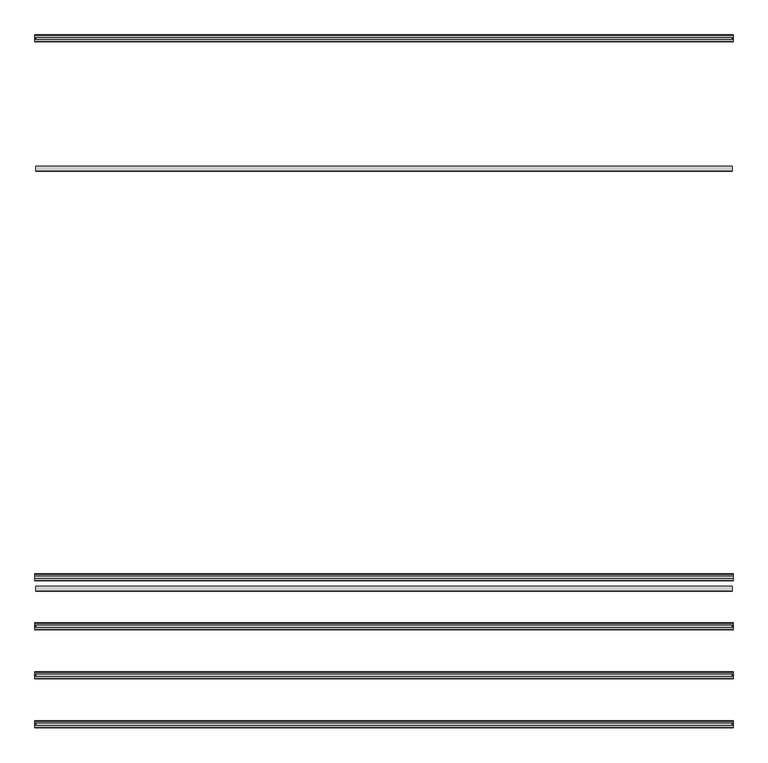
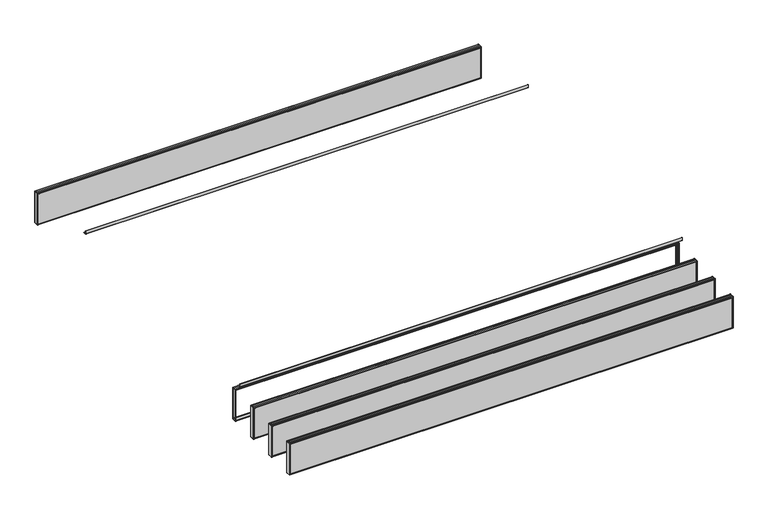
"""IFC4 building model written with IfcOpenShell, lengths in millimetres: proxy geometry, durlum_POLYLAM_KS : durlum_POLYLAM-KS/-S 40 RV-L6."""

from ifc_helpers import new_model, si_unit, point, frame, frame_2d, origin, place, context, project, spatial, polyline, circle_curve, trimmed, segment, composite_curve, outline, extrude, source, transform, mapped, element, save
from ifc_brep_helpers import plane_surface, cylinder_surface, advanced_brep


def generic_models_780d98af(model_context):
    return source(origin(), model_context, "Body", "SolidModel", [
        advanced_brep(
        [(1995.0, -1102.0, 1990.9), (1995.0, -1112.0, 1990.9), (1995.0, -1112.0, 1990.0604454), (1995.0, -1101.0, 1990.0604454), (1995.0, -1101.0, 1691.9), (1995.0, -1139.0, 1691.9), (1995.0, -1139.0, 1989.8155735), (1995.0, -1128.0, 1989.8155735), (1995.0, -1128.0, 1990.9), (1995.0, -1138.0, 1990.9), (1995.0, -1140.0, 1988.9), (1995.0, -1140.0, 1692.9), (1995.0, -1138.0, 1690.9), (1995.0, -1102.0, 1690.9), (1995.0, -1100.0, 1692.9), (1995.0, -1100.0, 1988.9), (-1995.0, -1102.0, 1990.9), (-1995.0, -1100.0, 1988.9), (-1995.0, -1100.0, 1692.9), (-1995.0, -1102.0, 1690.9), (-1995.0, -1138.0, 1690.9), (-1995.0, -1140.0, 1692.9), (-1995.0, -1140.0, 1988.9), (-1995.0, -1138.0, 1990.9), (-1995.0, -1128.0, 1990.9), (-1995.0, -1128.0, 1989.8155735), (-1995.0, -1139.0, 1989.8155735), (-1995.0, -1139.0, 1691.9), (-1995.0, -1101.0, 1691.9), (-1995.0, -1101.0, 1990.0604454), (-1995.0, -1112.0, 1990.0604454), (-1995.0, -1112.0, 1990.9), (-1986.5, -1101.0, 1982.4), (1986.5, -1101.0, 1982.4), (1986.5, -1101.0, 1699.4), (-1986.5, -1101.0, 1699.4), (1986.5, -1139.0, 1982.4), (-1986.5, -1139.0, 1982.4), (-1986.5, -1139.0, 1699.4), (1986.5, -1139.0, 1699.4), (-1986.5, -1140.0, 1982.4), (1986.5, -1140.0, 1982.4), (1986.5, -1140.0, 1699.4), (-1986.5, -1140.0, 1699.4), (1986.5, -1100.0, 1982.4), (-1986.5, -1100.0, 1982.4), (-1986.5, -1100.0, 1699.4), (1986.5, -1100.0, 1699.4)],
        [
            (0, 1),
            (1, 2),
            (2, 3),
            (3, 4),
            (4, 5),
            (5, 6),
            (6, 7),
            (7, 8),
            (8, 9),
            (9, 10, circle_curve(frame((1995.0, -1138.0, 1988.9), z_axis=(1.0, 0.0, 0.0), x_axis=(0.0, 1.0, 0.0)), 2.0)),
            (10, 11),
            (11, 12, circle_curve(frame((1995.0, -1138.0, 1692.9), z_axis=(1.0, 0.0, 0.0), x_axis=(0.0, 1.0, 0.0)), 2.0)),
            (12, 13),
            (13, 14, circle_curve(frame((1995.0, -1102.0, 1692.9), z_axis=(1.0, 0.0, 0.0), x_axis=(0.0, 1.0, 0.0)), 2.0)),
            (14, 15),
            (15, 0, circle_curve(frame((1995.0, -1102.0, 1988.9), z_axis=(1.0, 0.0, 0.0), x_axis=(0.0, 1.0, 0.0)), 2.0)),
            (16, 17, circle_curve(frame((-1995.0, -1102.0, 1988.9), z_axis=(-1.0, 0.0, 0.0), x_axis=(0.0, 1.0, 0.0)), 2.0)),
            (17, 18),
            (18, 19, circle_curve(frame((-1995.0, -1102.0, 1692.9), z_axis=(-1.0, 0.0, 0.0), x_axis=(0.0, 1.0, 0.0)), 2.0)),
            (19, 20),
            (20, 21, circle_curve(frame((-1995.0, -1138.0, 1692.9), z_axis=(-1.0, 0.0, 0.0), x_axis=(0.0, 1.0, 0.0)), 2.0)),
            (21, 22),
            (22, 23, circle_curve(frame((-1995.0, -1138.0, 1988.9), z_axis=(-1.0, 0.0, 0.0), x_axis=(0.0, 1.0, 0.0)), 2.0)),
            (23, 24),
            (24, 25),
            (25, 26),
            (26, 27),
            (27, 28),
            (28, 29),
            (29, 30),
            (30, 31),
            (31, 16),
            (0, 16),
            (31, 1),
            (30, 2),
            (29, 3),
            (28, 4),
            (32, 33),
            (33, 34),
            (34, 35),
            (35, 32),
            (27, 5),
            (26, 6),
            (36, 37),
            (37, 38),
            (38, 39),
            (39, 36),
            (25, 7),
            (24, 8),
            (23, 9),
            (10, 22),
            (21, 11),
            (40, 41),
            (41, 42),
            (42, 43),
            (43, 40),
            (12, 20),
            (19, 13),
            (14, 18),
            (17, 15),
            (44, 45),
            (45, 46),
            (46, 47),
            (47, 44),
            (44, 33),
            (32, 45),
            (36, 41),
            (40, 37),
            (35, 46),
            (43, 38),
            (34, 47),
            (42, 39),
        ],
        [
            plane_surface(frame((1995.0, -1112.0, 1990.9), z_axis=(1.0, 0.0, 0.0), x_axis=(0.0, -1.0, 0.0))),
            plane_surface(frame((-1995.0, -1112.0, 1990.9), z_axis=(-1.0, 0.0, 0.0), x_axis=(0.0, 1.0, 0.0))),
            plane_surface(frame((1995.0, -1102.0, 1990.9), z_axis=(0.0, 0.0, 1.0), x_axis=(-1.0, 0.0, 0.0))),
            plane_surface(frame((1995.0, -1112.0, 1990.9), z_axis=(0.0, -1.0, 0.0), x_axis=(-1.0, 0.0, 0.0))),
            plane_surface(frame((1995.0, -1112.0, 1990.0604454), z_axis=(0.0, 0.0, -1.0), x_axis=(-1.0, 0.0, 0.0))),
            plane_surface(frame((1995.0, -1101.0, 1990.0604454), z_axis=(0.0, -1.0, 0.0), x_axis=(-1.0, 0.0, 0.0))),
            plane_surface(frame((1995.0, -1101.0, 1691.9), z_axis=(0.0, 0.0, 1.0), x_axis=(-1.0, 0.0, 0.0))),
            plane_surface(frame((1995.0, -1139.0, 1691.9), z_axis=(0.0, 1.0, 0.0), x_axis=(-1.0, 0.0, 0.0))),
            plane_surface(frame((1995.0, -1139.0, 1989.8155735), z_axis=(0.0, 0.0, -1.0), x_axis=(-1.0, 0.0, 0.0))),
            plane_surface(frame((1995.0, -1128.0, 1989.8155735), z_axis=(0.0, 1.0, 0.0), x_axis=(-1.0, 0.0, 0.0))),
            plane_surface(frame((1995.0, -1128.0, 1990.9), z_axis=(0.0, 0.0, 1.0), x_axis=(-1.0, 0.0, 0.0))),
            plane_surface(frame((1995.0, -1140.0, 1988.9), z_axis=(0.0, -1.0, 0.0), x_axis=(-1.0, 0.0, 0.0))),
            plane_surface(frame((1995.0, -1138.0, 1690.9), z_axis=(0.0, 0.0, -1.0), x_axis=(-1.0, 0.0, 0.0))),
            plane_surface(frame((1995.0, -1100.0, 1692.9), z_axis=(0.0, 1.0, 0.0), x_axis=(-1.0, 0.0, 0.0))),
            cylinder_surface(frame((-1995.0, -1138.0, 1988.9), z_axis=(1.0, 0.0, 0.0), x_axis=(0.0, 1.0, 0.0)), 2.0),
            cylinder_surface(frame((-1995.0, -1138.0, 1692.9), z_axis=(1.0, 0.0, 0.0), x_axis=(0.0, 1.0, 0.0)), 2.0),
            cylinder_surface(frame((-1995.0, -1102.0, 1692.9), z_axis=(1.0, 0.0, 0.0), x_axis=(0.0, 1.0, 0.0)), 2.0),
            cylinder_surface(frame((-1995.0, -1102.0, 1988.9), z_axis=(1.0, 0.0, 0.0), x_axis=(0.0, 1.0, 0.0)), 2.0),
            plane_surface(frame((1986.5, -1140.0, 1982.4), z_axis=(0.0, 0.0, -1.0), x_axis=(0.0, 1.0, 0.0))),
            plane_surface(frame((-1986.5, -1140.0, 1982.4), z_axis=(1.0, 0.0, 0.0), x_axis=(0.0, 1.0, 0.0))),
            plane_surface(frame((-1986.5, -1140.0, 1699.4), z_axis=(0.0, 0.0, 1.0), x_axis=(0.0, 1.0, 0.0))),
            plane_surface(frame((1986.5, -1140.0, 1699.4), z_axis=(-1.0, 0.0, 0.0), x_axis=(0.0, 1.0, 0.0))),
        ],
        [
            (0, [[1, 2, 3, 4, 5, 6, 7, 8, 9, 10, 11, 12, 13, 14, 15, 16]]),
            (1, [[17, 18, 19, 20, 21, 22, 23, 24, 25, 26, 27, 28, 29, 30, 31, 32]]),
            (2, [[-1, 33, -32, 34]]),
            (3, [[-2, -34, -31, 35]]),
            (4, [[-3, -35, -30, 36]]),
            (5, [[-4, -36, -29, 37], [38, 39, 40, 41]]),
            (6, [[-5, -37, -28, 42]]),
            (7, [[-6, -42, -27, 43], [44, 45, 46, 47]]),
            (8, [[-7, -43, -26, 48]]),
            (9, [[-8, -48, -25, 49]]),
            (10, [[-9, -49, -24, 50]]),
            (11, [[-11, 51, -22, 52], [53, 54, 55, 56]]),
            (12, [[-13, 57, -20, 58]]),
            (13, [[-15, 59, -18, 60], [61, 62, 63, 64]]),
            (14, [[-10, -50, -23, -51]]),
            (15, [[-12, -52, -21, -57]]),
            (16, [[-14, -58, -19, -59]]),
            (17, [[-16, -60, -17, -33]]),
            (18, [[65, -38, 66, -61]]),
            (18, [[67, -53, 68, -44]]),
            (19, [[-66, -41, 69, -62]]),
            (19, [[-68, -56, 70, -45]]),
            (20, [[-69, -40, 71, -63]]),
            (20, [[-70, -55, 72, -46]]),
            (21, [[-65, -64, -71, -39]]),
            (21, [[-67, -47, -72, -54]]),
        ],
    ),
        extrude(outline(polyline([(1993.0, -1381.0), (1995.0, -1381.0), (1995.0, -1419.0), (1993.0, -1419.0), (1993.0, -1381.0)])), frame((0.0, 0.0, 1691.9), z_axis=(0.0, 0.0, 1.0), x_axis=(1.0, 0.0, 0.0)), (0.0, 0.0, 1.0), 298.1604454),
        extrude(outline(polyline([(-1995.0, -1381.0), (-1993.0, -1381.0), (-1993.0, -1419.0), (-1995.0, -1419.0), (-1995.0, -1381.0)])), frame((0.0, 0.0, 1691.9), z_axis=(0.0, 0.0, 1.0), x_axis=(1.0, 0.0, 0.0)), (0.0, 0.0, 1.0), 298.1604454),
        extrude(outline(polyline([(1986.5, -1381.0), (1986.5, -1419.0), (-1986.5, -1419.0), (-1986.5, -1381.0), (1986.5, -1381.0)])), frame((0.0, 0.0, 1691.9), z_axis=(0.0, 0.0, 1.0), x_axis=(1.0, 0.0, 0.0)), (0.0, 0.0, 1.0), 298.0),
        extrude(outline(polyline([(1986.5, -1381.0), (-1986.5, -1381.0), (-1986.5, -1380.0), (1986.5, -1380.0), (1986.5, -1381.0)])), frame((0.0, 0.0, 1699.4), z_axis=(0.0, 0.0, 1.0), x_axis=(1.0, 0.0, 0.0)), (0.0, 0.0, 1.0), 283.0),
        extrude(outline(polyline([(1986.5, -1420.0), (-1986.5, -1420.0), (-1986.5, -1419.0), (1986.5, -1419.0), (1986.5, -1420.0)])), frame((0.0, 0.0, 1699.4), z_axis=(0.0, 0.0, 1.0), x_axis=(1.0, 0.0, 0.0)), (0.0, 0.0, 1.0), 283.0),
        advanced_brep(
        [(1995.0, -1382.0, 1990.9), (1995.0, -1392.0, 1990.9), (1995.0, -1392.0, 1990.0604454), (1995.0, -1381.0, 1990.0604454), (1995.0, -1381.0, 1691.9), (1995.0, -1419.0, 1691.9), (1995.0, -1419.0, 1989.8155735), (1995.0, -1408.0, 1989.8155735), (1995.0, -1408.0, 1990.9), (1995.0, -1418.0, 1990.9), (1995.0, -1420.0, 1988.9), (1995.0, -1420.0, 1692.9), (1995.0, -1418.0, 1690.9), (1995.0, -1382.0, 1690.9), (1995.0, -1380.0, 1692.9), (1995.0, -1380.0, 1988.9), (-1995.0, -1382.0, 1990.9), (-1995.0, -1380.0, 1988.9), (-1995.0, -1380.0, 1692.9), (-1995.0, -1382.0, 1690.9), (-1995.0, -1418.0, 1690.9), (-1995.0, -1420.0, 1692.9), (-1995.0, -1420.0, 1988.9), (-1995.0, -1418.0, 1990.9), (-1995.0, -1408.0, 1990.9), (-1995.0, -1408.0, 1989.8155735), (-1995.0, -1419.0, 1989.8155735), (-1995.0, -1419.0, 1691.9), (-1995.0, -1381.0, 1691.9), (-1995.0, -1381.0, 1990.0604454), (-1995.0, -1392.0, 1990.0604454), (-1995.0, -1392.0, 1990.9), (-1986.5, -1381.0, 1982.4), (1986.5, -1381.0, 1982.4), (1986.5, -1381.0, 1699.4), (-1986.5, -1381.0, 1699.4), (1986.5, -1419.0, 1982.4), (-1986.5, -1419.0, 1982.4), (-1986.5, -1419.0, 1699.4), (1986.5, -1419.0, 1699.4), (-1986.5, -1420.0, 1982.4), (1986.5, -1420.0, 1982.4), (1986.5, -1420.0, 1699.4), (-1986.5, -1420.0, 1699.4), (1986.5, -1380.0, 1982.4), (-1986.5, -1380.0, 1982.4), (-1986.5, -1380.0, 1699.4), (1986.5, -1380.0, 1699.4)],
        [
            (0, 1),
            (1, 2),
            (2, 3),
            (3, 4),
            (4, 5),
            (5, 6),
            (6, 7),
            (7, 8),
            (8, 9),
            (9, 10, circle_curve(frame((1995.0, -1418.0, 1988.9), z_axis=(1.0, 0.0, 0.0), x_axis=(0.0, 1.0, 0.0)), 2.0)),
            (10, 11),
            (11, 12, circle_curve(frame((1995.0, -1418.0, 1692.9), z_axis=(1.0, 0.0, 0.0), x_axis=(0.0, 1.0, 0.0)), 2.0)),
            (12, 13),
            (13, 14, circle_curve(frame((1995.0, -1382.0, 1692.9), z_axis=(1.0, 0.0, 0.0), x_axis=(0.0, 1.0, 0.0)), 2.0)),
            (14, 15),
            (15, 0, circle_curve(frame((1995.0, -1382.0, 1988.9), z_axis=(1.0, 0.0, 0.0), x_axis=(0.0, 1.0, 0.0)), 2.0)),
            (16, 17, circle_curve(frame((-1995.0, -1382.0, 1988.9), z_axis=(-1.0, 0.0, 0.0), x_axis=(0.0, 1.0, 0.0)), 2.0)),
            (17, 18),
            (18, 19, circle_curve(frame((-1995.0, -1382.0, 1692.9), z_axis=(-1.0, 0.0, 0.0), x_axis=(0.0, 1.0, 0.0)), 2.0)),
            (19, 20),
            (20, 21, circle_curve(frame((-1995.0, -1418.0, 1692.9), z_axis=(-1.0, 0.0, 0.0), x_axis=(0.0, 1.0, 0.0)), 2.0)),
            (21, 22),
            (22, 23, circle_curve(frame((-1995.0, -1418.0, 1988.9), z_axis=(-1.0, 0.0, 0.0), x_axis=(0.0, 1.0, 0.0)), 2.0)),
            (23, 24),
            (24, 25),
            (25, 26),
            (26, 27),
            (27, 28),
            (28, 29),
            (29, 30),
            (30, 31),
            (31, 16),
            (0, 16),
            (31, 1),
            (30, 2),
            (29, 3),
            (28, 4),
            (32, 33),
            (33, 34),
            (34, 35),
            (35, 32),
            (27, 5),
            (26, 6),
            (36, 37),
            (37, 38),
            (38, 39),
            (39, 36),
            (25, 7),
            (24, 8),
            (23, 9),
            (10, 22),
            (21, 11),
            (40, 41),
            (41, 42),
            (42, 43),
            (43, 40),
            (12, 20),
            (19, 13),
            (14, 18),
            (17, 15),
            (44, 45),
            (45, 46),
            (46, 47),
            (47, 44),
            (44, 33),
            (32, 45),
            (36, 41),
            (40, 37),
            (35, 46),
            (43, 38),
            (34, 47),
            (42, 39),
        ],
        [
            plane_surface(frame((1995.0, -1392.0, 1990.9), z_axis=(1.0, 0.0, 0.0), x_axis=(0.0, -1.0, 0.0))),
            plane_surface(frame((-1995.0, -1392.0, 1990.9), z_axis=(-1.0, 0.0, 0.0), x_axis=(0.0, 1.0, 0.0))),
            plane_surface(frame((1995.0, -1382.0, 1990.9), z_axis=(0.0, 0.0, 1.0), x_axis=(-1.0, 0.0, 0.0))),
            plane_surface(frame((1995.0, -1392.0, 1990.9), z_axis=(0.0, -1.0, 0.0), x_axis=(-1.0, 0.0, 0.0))),
            plane_surface(frame((1995.0, -1392.0, 1990.0604454), z_axis=(0.0, 0.0, -1.0), x_axis=(-1.0, 0.0, 0.0))),
            plane_surface(frame((1995.0, -1381.0, 1990.0604454), z_axis=(0.0, -1.0, 0.0), x_axis=(-1.0, 0.0, 0.0))),
            plane_surface(frame((1995.0, -1381.0, 1691.9), z_axis=(0.0, 0.0, 1.0), x_axis=(-1.0, 0.0, 0.0))),
            plane_surface(frame((1995.0, -1419.0, 1691.9), z_axis=(0.0, 1.0, 0.0), x_axis=(-1.0, 0.0, 0.0))),
            plane_surface(frame((1995.0, -1419.0, 1989.8155735), z_axis=(0.0, 0.0, -1.0), x_axis=(-1.0, 0.0, 0.0))),
            plane_surface(frame((1995.0, -1408.0, 1989.8155735), z_axis=(0.0, 1.0, 0.0), x_axis=(-1.0, 0.0, 0.0))),
            plane_surface(frame((1995.0, -1408.0, 1990.9), z_axis=(0.0, 0.0, 1.0), x_axis=(-1.0, 0.0, 0.0))),
            plane_surface(frame((1995.0, -1420.0, 1988.9), z_axis=(0.0, -1.0, 0.0), x_axis=(-1.0, 0.0, 0.0))),
            plane_surface(frame((1995.0, -1418.0, 1690.9), z_axis=(0.0, 0.0, -1.0), x_axis=(-1.0, 0.0, 0.0))),
            plane_surface(frame((1995.0, -1380.0, 1692.9), z_axis=(0.0, 1.0, 0.0), x_axis=(-1.0, 0.0, 0.0))),
            cylinder_surface(frame((-1995.0, -1418.0, 1988.9), z_axis=(1.0, 0.0, 0.0), x_axis=(0.0, 1.0, 0.0)), 2.0),
            cylinder_surface(frame((-1995.0, -1418.0, 1692.9), z_axis=(1.0, 0.0, 0.0), x_axis=(0.0, 1.0, 0.0)), 2.0),
            cylinder_surface(frame((-1995.0, -1382.0, 1692.9), z_axis=(1.0, 0.0, 0.0), x_axis=(0.0, 1.0, 0.0)), 2.0),
            cylinder_surface(frame((-1995.0, -1382.0, 1988.9), z_axis=(1.0, 0.0, 0.0), x_axis=(0.0, 1.0, 0.0)), 2.0),
            plane_surface(frame((1986.5, -1420.0, 1982.4), z_axis=(0.0, 0.0, -1.0), x_axis=(0.0, 1.0, 0.0))),
            plane_surface(frame((-1986.5, -1420.0, 1982.4), z_axis=(1.0, 0.0, 0.0), x_axis=(0.0, 1.0, 0.0))),
            plane_surface(frame((-1986.5, -1420.0, 1699.4), z_axis=(0.0, 0.0, 1.0), x_axis=(0.0, 1.0, 0.0))),
            plane_surface(frame((1986.5, -1420.0, 1699.4), z_axis=(-1.0, 0.0, 0.0), x_axis=(0.0, 1.0, 0.0))),
        ],
        [
            (0, [[1, 2, 3, 4, 5, 6, 7, 8, 9, 10, 11, 12, 13, 14, 15, 16]]),
            (1, [[17, 18, 19, 20, 21, 22, 23, 24, 25, 26, 27, 28, 29, 30, 31, 32]]),
            (2, [[-1, 33, -32, 34]]),
            (3, [[-2, -34, -31, 35]]),
            (4, [[-3, -35, -30, 36]]),
            (5, [[-4, -36, -29, 37], [38, 39, 40, 41]]),
            (6, [[-5, -37, -28, 42]]),
            (7, [[-6, -42, -27, 43], [44, 45, 46, 47]]),
            (8, [[-7, -43, -26, 48]]),
            (9, [[-8, -48, -25, 49]]),
            (10, [[-9, -49, -24, 50]]),
            (11, [[-11, 51, -22, 52], [53, 54, 55, 56]]),
            (12, [[-13, 57, -20, 58]]),
            (13, [[-15, 59, -18, 60], [61, 62, 63, 64]]),
            (14, [[-10, -50, -23, -51]]),
            (15, [[-12, -52, -21, -57]]),
            (16, [[-14, -58, -19, -59]]),
            (17, [[-16, -60, -17, -33]]),
            (18, [[65, -38, 66, -61]]),
            (18, [[67, -53, 68, -44]]),
            (19, [[-66, -41, 69, -62]]),
            (19, [[-68, -56, 70, -45]]),
            (20, [[-69, -40, 71, -63]]),
            (20, [[-70, -55, 72, -46]]),
            (21, [[-65, -64, -71, -39]]),
            (21, [[-67, -47, -72, -54]]),
        ],
    ),
        extrude(outline(polyline([(1993.0, -1661.0), (1995.0, -1661.0), (1995.0, -1699.0), (1993.0, -1699.0), (1993.0, -1661.0)])), frame((0.0, 0.0, 1691.9), z_axis=(0.0, 0.0, 1.0), x_axis=(1.0, 0.0, 0.0)), (0.0, 0.0, 1.0), 298.1604454),
        extrude(outline(polyline([(-1995.0, -1661.0), (-1993.0, -1661.0), (-1993.0, -1699.0), (-1995.0, -1699.0), (-1995.0, -1661.0)])), frame((0.0, 0.0, 1691.9), z_axis=(0.0, 0.0, 1.0), x_axis=(1.0, 0.0, 0.0)), (0.0, 0.0, 1.0), 298.1604454),
        extrude(outline(polyline([(1986.5, -1661.0), (1986.5, -1699.0), (-1986.5, -1699.0), (-1986.5, -1661.0), (1986.5, -1661.0)])), frame((0.0, 0.0, 1691.9), z_axis=(0.0, 0.0, 1.0), x_axis=(1.0, 0.0, 0.0)), (0.0, 0.0, 1.0), 298.0),
        extrude(outline(polyline([(1986.5, -1661.0), (-1986.5, -1661.0), (-1986.5, -1660.0), (1986.5, -1660.0), (1986.5, -1661.0)])), frame((0.0, 0.0, 1699.4), z_axis=(0.0, 0.0, 1.0), x_axis=(1.0, 0.0, 0.0)), (0.0, 0.0, 1.0), 283.0),
        extrude(outline(polyline([(1986.5, -1700.0), (-1986.5, -1700.0), (-1986.5, -1699.0), (1986.5, -1699.0), (1986.5, -1700.0)])), frame((0.0, 0.0, 1699.4), z_axis=(0.0, 0.0, 1.0), x_axis=(1.0, 0.0, 0.0)), (0.0, 0.0, 1.0), 283.0),
        advanced_brep(
        [(1995.0, -1662.0, 1990.9), (1995.0, -1672.0, 1990.9), (1995.0, -1672.0, 1990.0604454), (1995.0, -1661.0, 1990.0604454), (1995.0, -1661.0, 1691.9), (1995.0, -1699.0, 1691.9), (1995.0, -1699.0, 1989.8155735), (1995.0, -1688.0, 1989.8155735), (1995.0, -1688.0, 1990.9), (1995.0, -1698.0, 1990.9), (1995.0, -1700.0, 1988.9), (1995.0, -1700.0, 1692.9), (1995.0, -1698.0, 1690.9), (1995.0, -1662.0, 1690.9), (1995.0, -1660.0, 1692.9), (1995.0, -1660.0, 1988.9), (-1995.0, -1662.0, 1990.9), (-1995.0, -1660.0, 1988.9), (-1995.0, -1660.0, 1692.9), (-1995.0, -1662.0, 1690.9), (-1995.0, -1698.0, 1690.9), (-1995.0, -1700.0, 1692.9), (-1995.0, -1700.0, 1988.9), (-1995.0, -1698.0, 1990.9), (-1995.0, -1688.0, 1990.9), (-1995.0, -1688.0, 1989.8155735), (-1995.0, -1699.0, 1989.8155735), (-1995.0, -1699.0, 1691.9), (-1995.0, -1661.0, 1691.9), (-1995.0, -1661.0, 1990.0604454), (-1995.0, -1672.0, 1990.0604454), (-1995.0, -1672.0, 1990.9), (-1986.5, -1661.0, 1982.4), (1986.5, -1661.0, 1982.4), (1986.5, -1661.0, 1699.4), (-1986.5, -1661.0, 1699.4), (1986.5, -1699.0, 1982.4), (-1986.5, -1699.0, 1982.4), (-1986.5, -1699.0, 1699.4), (1986.5, -1699.0, 1699.4), (-1986.5, -1700.0, 1982.4), (1986.5, -1700.0, 1982.4), (1986.5, -1700.0, 1699.4), (-1986.5, -1700.0, 1699.4), (1986.5, -1660.0, 1982.4), (-1986.5, -1660.0, 1982.4), (-1986.5, -1660.0, 1699.4), (1986.5, -1660.0, 1699.4)],
        [
            (0, 1),
            (1, 2),
            (2, 3),
            (3, 4),
            (4, 5),
            (5, 6),
            (6, 7),
            (7, 8),
            (8, 9),
            (9, 10, circle_curve(frame((1995.0, -1698.0, 1988.9), z_axis=(1.0, 0.0, 0.0), x_axis=(0.0, 1.0, 0.0)), 2.0)),
            (10, 11),
            (11, 12, circle_curve(frame((1995.0, -1698.0, 1692.9), z_axis=(1.0, 0.0, 0.0), x_axis=(0.0, 1.0, 0.0)), 2.0)),
            (12, 13),
            (13, 14, circle_curve(frame((1995.0, -1662.0, 1692.9), z_axis=(1.0, 0.0, 0.0), x_axis=(0.0, 1.0, 0.0)), 2.0)),
            (14, 15),
            (15, 0, circle_curve(frame((1995.0, -1662.0, 1988.9), z_axis=(1.0, 0.0, 0.0), x_axis=(0.0, 1.0, 0.0)), 2.0)),
            (16, 17, circle_curve(frame((-1995.0, -1662.0, 1988.9), z_axis=(-1.0, 0.0, 0.0), x_axis=(0.0, 1.0, 0.0)), 2.0)),
            (17, 18),
            (18, 19, circle_curve(frame((-1995.0, -1662.0, 1692.9), z_axis=(-1.0, 0.0, 0.0), x_axis=(0.0, 1.0, 0.0)), 2.0)),
            (19, 20),
            (20, 21, circle_curve(frame((-1995.0, -1698.0, 1692.9), z_axis=(-1.0, 0.0, 0.0), x_axis=(0.0, 1.0, 0.0)), 2.0)),
            (21, 22),
            (22, 23, circle_curve(frame((-1995.0, -1698.0, 1988.9), z_axis=(-1.0, 0.0, 0.0), x_axis=(0.0, 1.0, 0.0)), 2.0)),
            (23, 24),
            (24, 25),
            (25, 26),
            (26, 27),
            (27, 28),
            (28, 29),
            (29, 30),
            (30, 31),
            (31, 16),
            (0, 16),
            (31, 1),
            (30, 2),
            (29, 3),
            (28, 4),
            (32, 33),
            (33, 34),
            (34, 35),
            (35, 32),
            (27, 5),
            (26, 6),
            (36, 37),
            (37, 38),
            (38, 39),
            (39, 36),
            (25, 7),
            (24, 8),
            (23, 9),
            (10, 22),
            (21, 11),
            (40, 41),
            (41, 42),
            (42, 43),
            (43, 40),
            (12, 20),
            (19, 13),
            (14, 18),
            (17, 15),
            (44, 45),
            (45, 46),
            (46, 47),
            (47, 44),
            (44, 33),
            (32, 45),
            (36, 41),
            (40, 37),
            (35, 46),
            (43, 38),
            (34, 47),
            (42, 39),
        ],
        [
            plane_surface(frame((1995.0, -1672.0, 1990.9), z_axis=(1.0, 0.0, 0.0), x_axis=(0.0, -1.0, 0.0))),
            plane_surface(frame((-1995.0, -1672.0, 1990.9), z_axis=(-1.0, 0.0, 0.0), x_axis=(0.0, 1.0, 0.0))),
            plane_surface(frame((1995.0, -1662.0, 1990.9), z_axis=(0.0, 0.0, 1.0), x_axis=(-1.0, 0.0, 0.0))),
            plane_surface(frame((1995.0, -1672.0, 1990.9), z_axis=(0.0, -1.0, 0.0), x_axis=(-1.0, 0.0, 0.0))),
            plane_surface(frame((1995.0, -1672.0, 1990.0604454), z_axis=(0.0, 0.0, -1.0), x_axis=(-1.0, 0.0, 0.0))),
            plane_surface(frame((1995.0, -1661.0, 1990.0604454), z_axis=(0.0, -1.0, 0.0), x_axis=(-1.0, 0.0, 0.0))),
            plane_surface(frame((1995.0, -1661.0, 1691.9), z_axis=(0.0, 0.0, 1.0), x_axis=(-1.0, 0.0, 0.0))),
            plane_surface(frame((1995.0, -1699.0, 1691.9), z_axis=(0.0, 1.0, 0.0), x_axis=(-1.0, 0.0, 0.0))),
            plane_surface(frame((1995.0, -1699.0, 1989.8155735), z_axis=(0.0, 0.0, -1.0), x_axis=(-1.0, 0.0, 0.0))),
            plane_surface(frame((1995.0, -1688.0, 1989.8155735), z_axis=(0.0, 1.0, 0.0), x_axis=(-1.0, 0.0, 0.0))),
            plane_surface(frame((1995.0, -1688.0, 1990.9), z_axis=(0.0, 0.0, 1.0), x_axis=(-1.0, 0.0, 0.0))),
            plane_surface(frame((1995.0, -1700.0, 1988.9), z_axis=(0.0, -1.0, 0.0), x_axis=(-1.0, 0.0, 0.0))),
            plane_surface(frame((1995.0, -1698.0, 1690.9), z_axis=(0.0, 0.0, -1.0), x_axis=(-1.0, 0.0, 0.0))),
            plane_surface(frame((1995.0, -1660.0, 1692.9), z_axis=(0.0, 1.0, 0.0), x_axis=(-1.0, 0.0, 0.0))),
            cylinder_surface(frame((-1995.0, -1698.0, 1988.9), z_axis=(1.0, 0.0, 0.0), x_axis=(0.0, 1.0, 0.0)), 2.0),
            cylinder_surface(frame((-1995.0, -1698.0, 1692.9), z_axis=(1.0, 0.0, 0.0), x_axis=(0.0, 1.0, 0.0)), 2.0),
            cylinder_surface(frame((-1995.0, -1662.0, 1692.9), z_axis=(1.0, 0.0, 0.0), x_axis=(0.0, 1.0, 0.0)), 2.0),
            cylinder_surface(frame((-1995.0, -1662.0, 1988.9), z_axis=(1.0, 0.0, 0.0), x_axis=(0.0, 1.0, 0.0)), 2.0),
            plane_surface(frame((1986.5, -1700.0, 1982.4), z_axis=(0.0, 0.0, -1.0), x_axis=(0.0, 1.0, 0.0))),
            plane_surface(frame((-1986.5, -1700.0, 1982.4), z_axis=(1.0, 0.0, 0.0), x_axis=(0.0, 1.0, 0.0))),
            plane_surface(frame((-1986.5, -1700.0, 1699.4), z_axis=(0.0, 0.0, 1.0), x_axis=(0.0, 1.0, 0.0))),
            plane_surface(frame((1986.5, -1700.0, 1699.4), z_axis=(-1.0, 0.0, 0.0), x_axis=(0.0, 1.0, 0.0))),
        ],
        [
            (0, [[1, 2, 3, 4, 5, 6, 7, 8, 9, 10, 11, 12, 13, 14, 15, 16]]),
            (1, [[17, 18, 19, 20, 21, 22, 23, 24, 25, 26, 27, 28, 29, 30, 31, 32]]),
            (2, [[-1, 33, -32, 34]]),
            (3, [[-2, -34, -31, 35]]),
            (4, [[-3, -35, -30, 36]]),
            (5, [[-4, -36, -29, 37], [38, 39, 40, 41]]),
            (6, [[-5, -37, -28, 42]]),
            (7, [[-6, -42, -27, 43], [44, 45, 46, 47]]),
            (8, [[-7, -43, -26, 48]]),
            (9, [[-8, -48, -25, 49]]),
            (10, [[-9, -49, -24, 50]]),
            (11, [[-11, 51, -22, 52], [53, 54, 55, 56]]),
            (12, [[-13, 57, -20, 58]]),
            (13, [[-15, 59, -18, 60], [61, 62, 63, 64]]),
            (14, [[-10, -50, -23, -51]]),
            (15, [[-12, -52, -21, -57]]),
            (16, [[-14, -58, -19, -59]]),
            (17, [[-16, -60, -17, -33]]),
            (18, [[65, -38, 66, -61]]),
            (18, [[67, -53, 68, -44]]),
            (19, [[-66, -41, 69, -62]]),
            (19, [[-68, -56, 70, -45]]),
            (20, [[-69, -40, 71, -63]]),
            (20, [[-70, -55, 72, -46]]),
            (21, [[-65, -64, -71, -39]]),
            (21, [[-67, -47, -72, -54]]),
        ],
    ),
        extrude(outline(polyline([(1993.0, 1979.0), (1995.0, 1979.0), (1995.0, 1941.0), (1993.0, 1941.0), (1993.0, 1979.0)])), frame((0.0, 0.0, 1691.9), z_axis=(0.0, 0.0, 1.0), x_axis=(1.0, 0.0, 0.0)), (0.0, 0.0, 1.0), 298.1604454),
        extrude(outline(polyline([(-1995.0, 1979.0), (-1993.0, 1979.0), (-1993.0, 1941.0), (-1995.0, 1941.0), (-1995.0, 1979.0)])), frame((0.0, 0.0, 1691.9), z_axis=(0.0, 0.0, 1.0), x_axis=(1.0, 0.0, 0.0)), (0.0, 0.0, 1.0), 298.1604454),
        extrude(outline(polyline([(1986.5, 1979.0), (1986.5, 1941.0), (-1986.5, 1941.0), (-1986.5, 1979.0), (1986.5, 1979.0)])), frame((0.0, 0.0, 1691.9), z_axis=(0.0, 0.0, 1.0), x_axis=(1.0, 0.0, 0.0)), (0.0, 0.0, 1.0), 298.0),
        extrude(outline(polyline([(1986.5, 1979.0), (-1986.5, 1979.0), (-1986.5, 1980.0), (1986.5, 1980.0), (1986.5, 1979.0)])), frame((0.0, 0.0, 1699.4), z_axis=(0.0, 0.0, 1.0), x_axis=(1.0, 0.0, 0.0)), (0.0, 0.0, 1.0), 283.0),
        extrude(outline(polyline([(1986.5, 1940.0), (-1986.5, 1940.0), (-1986.5, 1941.0), (1986.5, 1941.0), (1986.5, 1940.0)])), frame((0.0, 0.0, 1699.4), z_axis=(0.0, 0.0, 1.0), x_axis=(1.0, 0.0, 0.0)), (0.0, 0.0, 1.0), 283.0),
        advanced_brep(
        [(1995.0, 1978.0, 1990.9), (1995.0, 1968.0, 1990.9), (1995.0, 1968.0, 1990.0604454), (1995.0, 1979.0, 1990.0604454), (1995.0, 1979.0, 1691.9), (1995.0, 1941.0, 1691.9), (1995.0, 1941.0, 1989.8155735), (1995.0, 1952.0, 1989.8155735), (1995.0, 1952.0, 1990.9), (1995.0, 1942.0, 1990.9), (1995.0, 1940.0, 1988.9), (1995.0, 1940.0, 1692.9), (1995.0, 1942.0, 1690.9), (1995.0, 1978.0, 1690.9), (1995.0, 1980.0, 1692.9), (1995.0, 1980.0, 1988.9), (-1995.0, 1978.0, 1990.9), (-1995.0, 1980.0, 1988.9), (-1995.0, 1980.0, 1692.9), (-1995.0, 1978.0, 1690.9), (-1995.0, 1942.0, 1690.9), (-1995.0, 1940.0, 1692.9), (-1995.0, 1940.0, 1988.9), (-1995.0, 1942.0, 1990.9), (-1995.0, 1952.0, 1990.9), (-1995.0, 1952.0, 1989.8155735), (-1995.0, 1941.0, 1989.8155735), (-1995.0, 1941.0, 1691.9), (-1995.0, 1979.0, 1691.9), (-1995.0, 1979.0, 1990.0604454), (-1995.0, 1968.0, 1990.0604454), (-1995.0, 1968.0, 1990.9), (-1986.5, 1979.0, 1982.4), (1986.5, 1979.0, 1982.4), (1986.5, 1979.0, 1699.4), (-1986.5, 1979.0, 1699.4), (1986.5, 1941.0, 1982.4), (-1986.5, 1941.0, 1982.4), (-1986.5, 1941.0, 1699.4), (1986.5, 1941.0, 1699.4), (-1986.5, 1940.0, 1982.4), (1986.5, 1940.0, 1982.4), (1986.5, 1940.0, 1699.4), (-1986.5, 1940.0, 1699.4), (1986.5, 1980.0, 1982.4), (-1986.5, 1980.0, 1982.4), (-1986.5, 1980.0, 1699.4), (1986.5, 1980.0, 1699.4)],
        [
            (0, 1),
            (1, 2),
            (2, 3),
            (3, 4),
            (4, 5),
            (5, 6),
            (6, 7),
            (7, 8),
            (8, 9),
            (9, 10, circle_curve(frame((1995.0, 1942.0, 1988.9), z_axis=(1.0, 0.0, 0.0), x_axis=(0.0, 1.0, 0.0)), 2.0)),
            (10, 11),
            (11, 12, circle_curve(frame((1995.0, 1942.0, 1692.9), z_axis=(1.0, 0.0, 0.0), x_axis=(0.0, 1.0, 0.0)), 2.0)),
            (12, 13),
            (13, 14, circle_curve(frame((1995.0, 1978.0, 1692.9), z_axis=(1.0, 0.0, 0.0), x_axis=(0.0, 1.0, 0.0)), 2.0)),
            (14, 15),
            (15, 0, circle_curve(frame((1995.0, 1978.0, 1988.9), z_axis=(1.0, 0.0, 0.0), x_axis=(0.0, 1.0, 0.0)), 2.0)),
            (16, 17, circle_curve(frame((-1995.0, 1978.0, 1988.9), z_axis=(-1.0, 0.0, 0.0), x_axis=(0.0, 1.0, 0.0)), 2.0)),
            (17, 18),
            (18, 19, circle_curve(frame((-1995.0, 1978.0, 1692.9), z_axis=(-1.0, 0.0, 0.0), x_axis=(0.0, 1.0, 0.0)), 2.0)),
            (19, 20),
            (20, 21, circle_curve(frame((-1995.0, 1942.0, 1692.9), z_axis=(-1.0, 0.0, 0.0), x_axis=(0.0, 1.0, 0.0)), 2.0)),
            (21, 22),
            (22, 23, circle_curve(frame((-1995.0, 1942.0, 1988.9), z_axis=(-1.0, 0.0, 0.0), x_axis=(0.0, 1.0, 0.0)), 2.0)),
            (23, 24),
            (24, 25),
            (25, 26),
            (26, 27),
            (27, 28),
            (28, 29),
            (29, 30),
            (30, 31),
            (31, 16),
            (0, 16),
            (31, 1),
            (30, 2),
            (29, 3),
            (28, 4),
            (32, 33),
            (33, 34),
            (34, 35),
            (35, 32),
            (27, 5),
            (26, 6),
            (36, 37),
            (37, 38),
            (38, 39),
            (39, 36),
            (25, 7),
            (24, 8),
            (23, 9),
            (10, 22),
            (21, 11),
            (40, 41),
            (41, 42),
            (42, 43),
            (43, 40),
            (12, 20),
            (19, 13),
            (14, 18),
            (17, 15),
            (44, 45),
            (45, 46),
            (46, 47),
            (47, 44),
            (44, 33),
            (32, 45),
            (36, 41),
            (40, 37),
            (35, 46),
            (43, 38),
            (34, 47),
            (42, 39),
        ],
        [
            plane_surface(frame((1995.0, 1968.0, 1990.9), z_axis=(1.0, 0.0, 0.0), x_axis=(0.0, -1.0, 0.0))),
            plane_surface(frame((-1995.0, 1968.0, 1990.9), z_axis=(-1.0, 0.0, 0.0), x_axis=(0.0, 1.0, 0.0))),
            plane_surface(frame((1995.0, 1978.0, 1990.9), z_axis=(0.0, 0.0, 1.0), x_axis=(-1.0, 0.0, 0.0))),
            plane_surface(frame((1995.0, 1968.0, 1990.9), z_axis=(0.0, -1.0, 0.0), x_axis=(-1.0, 0.0, 0.0))),
            plane_surface(frame((1995.0, 1968.0, 1990.0604454), z_axis=(0.0, 0.0, -1.0), x_axis=(-1.0, 0.0, 0.0))),
            plane_surface(frame((1995.0, 1979.0, 1990.0604454), z_axis=(0.0, -1.0, 0.0), x_axis=(-1.0, 0.0, 0.0))),
            plane_surface(frame((1995.0, 1979.0, 1691.9), z_axis=(0.0, 0.0, 1.0), x_axis=(-1.0, 0.0, 0.0))),
            plane_surface(frame((1995.0, 1941.0, 1691.9), z_axis=(0.0, 1.0, 0.0), x_axis=(-1.0, 0.0, 0.0))),
            plane_surface(frame((1995.0, 1941.0, 1989.8155735), z_axis=(0.0, 0.0, -1.0), x_axis=(-1.0, 0.0, 0.0))),
            plane_surface(frame((1995.0, 1952.0, 1989.8155735), z_axis=(0.0, 1.0, 0.0), x_axis=(-1.0, 0.0, 0.0))),
            plane_surface(frame((1995.0, 1952.0, 1990.9), z_axis=(0.0, 0.0, 1.0), x_axis=(-1.0, 0.0, 0.0))),
            plane_surface(frame((1995.0, 1940.0, 1988.9), z_axis=(0.0, -1.0, 0.0), x_axis=(-1.0, 0.0, 0.0))),
            plane_surface(frame((1995.0, 1942.0, 1690.9), z_axis=(0.0, 0.0, -1.0), x_axis=(-1.0, 0.0, 0.0))),
            plane_surface(frame((1995.0, 1980.0, 1692.9), z_axis=(0.0, 1.0, 0.0), x_axis=(-1.0, 0.0, 0.0))),
            cylinder_surface(frame((-1995.0, 1942.0, 1988.9), z_axis=(1.0, 0.0, 0.0), x_axis=(0.0, 1.0, 0.0)), 2.0),
            cylinder_surface(frame((-1995.0, 1942.0, 1692.9), z_axis=(1.0, 0.0, 0.0), x_axis=(0.0, 1.0, 0.0)), 2.0),
            cylinder_surface(frame((-1995.0, 1978.0, 1692.9), z_axis=(1.0, 0.0, 0.0), x_axis=(0.0, 1.0, 0.0)), 2.0),
            cylinder_surface(frame((-1995.0, 1978.0, 1988.9), z_axis=(1.0, 0.0, 0.0), x_axis=(0.0, 1.0, 0.0)), 2.0),
            plane_surface(frame((1986.5, 1940.0, 1982.4), z_axis=(0.0, 0.0, -1.0), x_axis=(0.0, 1.0, 0.0))),
            plane_surface(frame((-1986.5, 1940.0, 1982.4), z_axis=(1.0, 0.0, 0.0), x_axis=(0.0, 1.0, 0.0))),
            plane_surface(frame((-1986.5, 1940.0, 1699.4), z_axis=(0.0, 0.0, 1.0), x_axis=(0.0, 1.0, 0.0))),
            plane_surface(frame((1986.5, 1940.0, 1699.4), z_axis=(-1.0, 0.0, 0.0), x_axis=(0.0, 1.0, 0.0))),
        ],
        [
            (0, [[1, 2, 3, 4, 5, 6, 7, 8, 9, 10, 11, 12, 13, 14, 15, 16]]),
            (1, [[17, 18, 19, 20, 21, 22, 23, 24, 25, 26, 27, 28, 29, 30, 31, 32]]),
            (2, [[-1, 33, -32, 34]]),
            (3, [[-2, -34, -31, 35]]),
            (4, [[-3, -35, -30, 36]]),
            (5, [[-4, -36, -29, 37], [38, 39, 40, 41]]),
            (6, [[-5, -37, -28, 42]]),
            (7, [[-6, -42, -27, 43], [44, 45, 46, 47]]),
            (8, [[-7, -43, -26, 48]]),
            (9, [[-8, -48, -25, 49]]),
            (10, [[-9, -49, -24, 50]]),
            (11, [[-11, 51, -22, 52], [53, 54, 55, 56]]),
            (12, [[-13, 57, -20, 58]]),
            (13, [[-15, 59, -18, 60], [61, 62, 63, 64]]),
            (14, [[-10, -50, -23, -51]]),
            (15, [[-12, -52, -21, -57]]),
            (16, [[-14, -58, -19, -59]]),
            (17, [[-16, -60, -17, -33]]),
            (18, [[65, -38, 66, -61]]),
            (18, [[67, -53, 68, -44]]),
            (19, [[-66, -41, 69, -62]]),
            (19, [[-68, -56, 70, -45]]),
            (20, [[-69, -40, 71, -63]]),
            (20, [[-70, -55, 72, -46]]),
            (21, [[-65, -64, -71, -39]]),
            (21, [[-67, -47, -72, -54]]),
        ],
    ),
        extrude(outline(polyline([(1993.0, -1941.0), (1995.0, -1941.0), (1995.0, -1979.0), (1993.0, -1979.0), (1993.0, -1941.0)])), frame((0.0, 0.0, 1691.9), z_axis=(0.0, 0.0, 1.0), x_axis=(1.0, 0.0, 0.0)), (0.0, 0.0, 1.0), 298.1604454),
        extrude(outline(polyline([(-1995.0, -1941.0), (-1993.0, -1941.0), (-1993.0, -1979.0), (-1995.0, -1979.0), (-1995.0, -1941.0)])), frame((0.0, 0.0, 1691.9), z_axis=(0.0, 0.0, 1.0), x_axis=(1.0, 0.0, 0.0)), (0.0, 0.0, 1.0), 298.1604454),
        extrude(outline(polyline([(1986.5, -1941.0), (1986.5, -1979.0), (-1986.5, -1979.0), (-1986.5, -1941.0), (1986.5, -1941.0)])), frame((0.0, 0.0, 1691.9), z_axis=(0.0, 0.0, 1.0), x_axis=(1.0, 0.0, 0.0)), (0.0, 0.0, 1.0), 298.0),
        extrude(outline(polyline([(1986.5, -1941.0), (-1986.5, -1941.0), (-1986.5, -1940.0), (1986.5, -1940.0), (1986.5, -1941.0)])), frame((0.0, 0.0, 1699.4), z_axis=(0.0, 0.0, 1.0), x_axis=(1.0, 0.0, 0.0)), (0.0, 0.0, 1.0), 283.0),
        extrude(outline(polyline([(1986.5, -1980.0), (-1986.5, -1980.0), (-1986.5, -1979.0), (1986.5, -1979.0), (1986.5, -1980.0)])), frame((0.0, 0.0, 1699.4), z_axis=(0.0, 0.0, 1.0), x_axis=(1.0, 0.0, 0.0)), (0.0, 0.0, 1.0), 283.0),
        advanced_brep(
        [(1995.0, -1942.0, 1990.9), (1995.0, -1952.0, 1990.9), (1995.0, -1952.0, 1990.0604454), (1995.0, -1941.0, 1990.0604454), (1995.0, -1941.0, 1691.9), (1995.0, -1979.0, 1691.9), (1995.0, -1979.0, 1989.8155735), (1995.0, -1968.0, 1989.8155735), (1995.0, -1968.0, 1990.9), (1995.0, -1978.0, 1990.9), (1995.0, -1980.0, 1988.9), (1995.0, -1980.0, 1692.9), (1995.0, -1978.0, 1690.9), (1995.0, -1942.0, 1690.9), (1995.0, -1940.0, 1692.9), (1995.0, -1940.0, 1988.9), (-1995.0, -1942.0, 1990.9), (-1995.0, -1940.0, 1988.9), (-1995.0, -1940.0, 1692.9), (-1995.0, -1942.0, 1690.9), (-1995.0, -1978.0, 1690.9), (-1995.0, -1980.0, 1692.9), (-1995.0, -1980.0, 1988.9), (-1995.0, -1978.0, 1990.9), (-1995.0, -1968.0, 1990.9), (-1995.0, -1968.0, 1989.8155735), (-1995.0, -1979.0, 1989.8155735), (-1995.0, -1979.0, 1691.9), (-1995.0, -1941.0, 1691.9), (-1995.0, -1941.0, 1990.0604454), (-1995.0, -1952.0, 1990.0604454), (-1995.0, -1952.0, 1990.9), (-1986.5, -1941.0, 1982.4), (1986.5, -1941.0, 1982.4), (1986.5, -1941.0, 1699.4), (-1986.5, -1941.0, 1699.4), (1986.5, -1979.0, 1982.4), (-1986.5, -1979.0, 1982.4), (-1986.5, -1979.0, 1699.4), (1986.5, -1979.0, 1699.4), (-1986.5, -1980.0, 1982.4), (1986.5, -1980.0, 1982.4), (1986.5, -1980.0, 1699.4), (-1986.5, -1980.0, 1699.4), (1986.5, -1940.0, 1982.4), (-1986.5, -1940.0, 1982.4), (-1986.5, -1940.0, 1699.4), (1986.5, -1940.0, 1699.4)],
        [
            (0, 1),
            (1, 2),
            (2, 3),
            (3, 4),
            (4, 5),
            (5, 6),
            (6, 7),
            (7, 8),
            (8, 9),
            (9, 10, circle_curve(frame((1995.0, -1978.0, 1988.9), z_axis=(1.0, 0.0, 0.0), x_axis=(0.0, 1.0, 0.0)), 2.0)),
            (10, 11),
            (11, 12, circle_curve(frame((1995.0, -1978.0, 1692.9), z_axis=(1.0, 0.0, 0.0), x_axis=(0.0, 1.0, 0.0)), 2.0)),
            (12, 13),
            (13, 14, circle_curve(frame((1995.0, -1942.0, 1692.9), z_axis=(1.0, 0.0, 0.0), x_axis=(0.0, 1.0, 0.0)), 2.0)),
            (14, 15),
            (15, 0, circle_curve(frame((1995.0, -1942.0, 1988.9), z_axis=(1.0, 0.0, 0.0), x_axis=(0.0, 1.0, 0.0)), 2.0)),
            (16, 17, circle_curve(frame((-1995.0, -1942.0, 1988.9), z_axis=(-1.0, 0.0, 0.0), x_axis=(0.0, 1.0, 0.0)), 2.0)),
            (17, 18),
            (18, 19, circle_curve(frame((-1995.0, -1942.0, 1692.9), z_axis=(-1.0, 0.0, 0.0), x_axis=(0.0, 1.0, 0.0)), 2.0)),
            (19, 20),
            (20, 21, circle_curve(frame((-1995.0, -1978.0, 1692.9), z_axis=(-1.0, 0.0, 0.0), x_axis=(0.0, 1.0, 0.0)), 2.0)),
            (21, 22),
            (22, 23, circle_curve(frame((-1995.0, -1978.0, 1988.9), z_axis=(-1.0, 0.0, 0.0), x_axis=(0.0, 1.0, 0.0)), 2.0)),
            (23, 24),
            (24, 25),
            (25, 26),
            (26, 27),
            (27, 28),
            (28, 29),
            (29, 30),
            (30, 31),
            (31, 16),
            (0, 16),
            (31, 1),
            (30, 2),
            (29, 3),
            (28, 4),
            (32, 33),
            (33, 34),
            (34, 35),
            (35, 32),
            (27, 5),
            (26, 6),
            (36, 37),
            (37, 38),
            (38, 39),
            (39, 36),
            (25, 7),
            (24, 8),
            (23, 9),
            (10, 22),
            (21, 11),
            (40, 41),
            (41, 42),
            (42, 43),
            (43, 40),
            (12, 20),
            (19, 13),
            (14, 18),
            (17, 15),
            (44, 45),
            (45, 46),
            (46, 47),
            (47, 44),
            (44, 33),
            (32, 45),
            (36, 41),
            (40, 37),
            (35, 46),
            (43, 38),
            (34, 47),
            (42, 39),
        ],
        [
            plane_surface(frame((1995.0, -1952.0, 1990.9), z_axis=(1.0, 0.0, 0.0), x_axis=(0.0, -1.0, 0.0))),
            plane_surface(frame((-1995.0, -1952.0, 1990.9), z_axis=(-1.0, 0.0, 0.0), x_axis=(0.0, 1.0, 0.0))),
            plane_surface(frame((1995.0, -1942.0, 1990.9), z_axis=(0.0, 0.0, 1.0), x_axis=(-1.0, 0.0, 0.0))),
            plane_surface(frame((1995.0, -1952.0, 1990.9), z_axis=(0.0, -1.0, 0.0), x_axis=(-1.0, 0.0, 0.0))),
            plane_surface(frame((1995.0, -1952.0, 1990.0604454), z_axis=(0.0, 0.0, -1.0), x_axis=(-1.0, 0.0, 0.0))),
            plane_surface(frame((1995.0, -1941.0, 1990.0604454), z_axis=(0.0, -1.0, 0.0), x_axis=(-1.0, 0.0, 0.0))),
            plane_surface(frame((1995.0, -1941.0, 1691.9), z_axis=(0.0, 0.0, 1.0), x_axis=(-1.0, 0.0, 0.0))),
            plane_surface(frame((1995.0, -1979.0, 1691.9), z_axis=(0.0, 1.0, 0.0), x_axis=(-1.0, 0.0, 0.0))),
            plane_surface(frame((1995.0, -1979.0, 1989.8155735), z_axis=(0.0, 0.0, -1.0), x_axis=(-1.0, 0.0, 0.0))),
            plane_surface(frame((1995.0, -1968.0, 1989.8155735), z_axis=(0.0, 1.0, 0.0), x_axis=(-1.0, 0.0, 0.0))),
            plane_surface(frame((1995.0, -1968.0, 1990.9), z_axis=(0.0, 0.0, 1.0), x_axis=(-1.0, 0.0, 0.0))),
            plane_surface(frame((1995.0, -1980.0, 1988.9), z_axis=(0.0, -1.0, 0.0), x_axis=(-1.0, 0.0, 0.0))),
            plane_surface(frame((1995.0, -1978.0, 1690.9), z_axis=(0.0, 0.0, -1.0), x_axis=(-1.0, 0.0, 0.0))),
            plane_surface(frame((1995.0, -1940.0, 1692.9), z_axis=(0.0, 1.0, 0.0), x_axis=(-1.0, 0.0, 0.0))),
            cylinder_surface(frame((-1995.0, -1978.0, 1988.9), z_axis=(1.0, 0.0, 0.0), x_axis=(0.0, 1.0, 0.0)), 2.0),
            cylinder_surface(frame((-1995.0, -1978.0, 1692.9), z_axis=(1.0, 0.0, 0.0), x_axis=(0.0, 1.0, 0.0)), 2.0),
            cylinder_surface(frame((-1995.0, -1942.0, 1692.9), z_axis=(1.0, 0.0, 0.0), x_axis=(0.0, 1.0, 0.0)), 2.0),
            cylinder_surface(frame((-1995.0, -1942.0, 1988.9), z_axis=(1.0, 0.0, 0.0), x_axis=(0.0, 1.0, 0.0)), 2.0),
            plane_surface(frame((1986.5, -1980.0, 1982.4), z_axis=(0.0, 0.0, -1.0), x_axis=(0.0, 1.0, 0.0))),
            plane_surface(frame((-1986.5, -1980.0, 1982.4), z_axis=(1.0, 0.0, 0.0), x_axis=(0.0, 1.0, 0.0))),
            plane_surface(frame((-1986.5, -1980.0, 1699.4), z_axis=(0.0, 0.0, 1.0), x_axis=(0.0, 1.0, 0.0))),
            plane_surface(frame((1986.5, -1980.0, 1699.4), z_axis=(-1.0, 0.0, 0.0), x_axis=(0.0, 1.0, 0.0))),
        ],
        [
            (0, [[1, 2, 3, 4, 5, 6, 7, 8, 9, 10, 11, 12, 13, 14, 15, 16]]),
            (1, [[17, 18, 19, 20, 21, 22, 23, 24, 25, 26, 27, 28, 29, 30, 31, 32]]),
            (2, [[-1, 33, -32, 34]]),
            (3, [[-2, -34, -31, 35]]),
            (4, [[-3, -35, -30, 36]]),
            (5, [[-4, -36, -29, 37], [38, 39, 40, 41]]),
            (6, [[-5, -37, -28, 42]]),
            (7, [[-6, -42, -27, 43], [44, 45, 46, 47]]),
            (8, [[-7, -43, -26, 48]]),
            (9, [[-8, -48, -25, 49]]),
            (10, [[-9, -49, -24, 50]]),
            (11, [[-11, 51, -22, 52], [53, 54, 55, 56]]),
            (12, [[-13, 57, -20, 58]]),
            (13, [[-15, 59, -18, 60], [61, 62, 63, 64]]),
            (14, [[-10, -50, -23, -51]]),
            (15, [[-12, -52, -21, -57]]),
            (16, [[-14, -58, -19, -59]]),
            (17, [[-16, -60, -17, -33]]),
            (18, [[65, -38, 66, -61]]),
            (18, [[67, -53, 68, -44]]),
            (19, [[-66, -41, 69, -62]]),
            (19, [[-68, -56, 70, -45]]),
            (20, [[-69, -40, 71, -63]]),
            (20, [[-70, -55, 72, -46]]),
            (21, [[-65, -64, -71, -39]]),
            (21, [[-67, -47, -72, -54]]),
        ],
    ),
        extrude(outline(composite_curve([segment(polyline([(-1198.0, 2079.9), (-1198.0, 2054.0)]), True, "CONTINUOUS"), segment(trimmed(circle_curve(frame_2d((-1196.0, 2054.0)), 2.0), [point((-1198.0, 2054.0))], [point((-1196.0, 2052.0))], True, "CARTESIAN"), True, "CONTINUOUS"), segment(polyline([(-1196.0, 2052.0), (-1170.1, 2052.0), (-1170.1, 2050.0), (-1196.0, 2050.0)]), True, "CONTINUOUS"), segment(trimmed(circle_curve(frame_2d((-1196.0, 2054.0)), 4.0), [point((-1196.0, 2050.0))], [point((-1200.0, 2054.0))], False, "CARTESIAN"), True, "CONTINUOUS"), segment(polyline([(-1200.0, 2054.0), (-1200.0, 2079.9), (-1198.0, 2079.9)]), True, "CONTINUOUS")], self_intersect=False)), frame((-1990.0, 0.0, 0.0), z_axis=(1.0, 0.0, 0.0), x_axis=(0.0, 1.0, 0.0)), (0.0, 0.0, 1.0), 3980.0),
        extrude(outline(composite_curve([segment(polyline([(1202.0, 2079.9), (1202.0, 2054.0)]), True, "CONTINUOUS"), segment(trimmed(circle_curve(frame_2d((1204.0, 2054.0)), 2.0), [point((1202.0, 2054.0))], [point((1204.0, 2052.0))], True, "CARTESIAN"), True, "CONTINUOUS"), segment(polyline([(1204.0, 2052.0), (1229.9, 2052.0), (1229.9, 2050.0), (1204.0, 2050.0)]), True, "CONTINUOUS"), segment(trimmed(circle_curve(frame_2d((1204.0, 2054.0)), 4.0), [point((1204.0, 2050.0))], [point((1200.0, 2054.0))], False, "CARTESIAN"), True, "CONTINUOUS"), segment(polyline([(1200.0, 2054.0), (1200.0, 2079.9), (1202.0, 2079.9)]), True, "CONTINUOUS")], self_intersect=False)), frame((-1990.0, 0.0, 0.0), z_axis=(1.0, 0.0, 0.0), x_axis=(0.0, 1.0, 0.0)), (0.0, 0.0, 1.0), 3980.0),
    ])


if __name__ == "__main__":
    model = new_model("IFC4")
    model_context = context("Model", 3, world=origin())
    ifc_project = project(units=[si_unit("LENGTHUNIT", "METRE", prefix="MILLI")], contexts=[model_context])
    site = spatial("IfcSite", under=ifc_project)
    building = spatial("IfcBuilding", under=site)
    placement = place(None, origin())
    generic_models_shape = generic_models_780d98af(model_context)
    element("IfcBuildingElementProxy", 1, Name="durlum_POLYLAM_KS : durlum_POLYLAM-KS/-S 40 RV-L6", ObjectType="durlum_POLYLAM_KS : durlum_POLYLAM-KS/-S 40 RV-L6", at=placement, inside=building, context=model_context, shape_type="MappedRepresentation", body=[
        mapped(generic_models_shape, transform((0.0, 0.0, 0.0), x_axis=(1.0, 0.0, 0.0), y_axis=(0.0, 1.0, 0.0), z_axis=(0.0, 0.0, 1.0))),
    ])
    save(model, "model.ifc")
